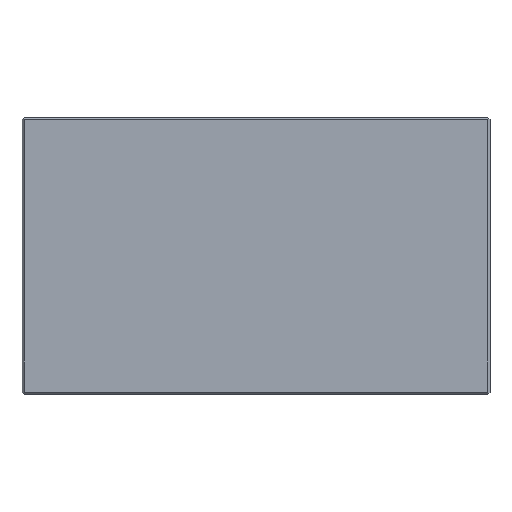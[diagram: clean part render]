
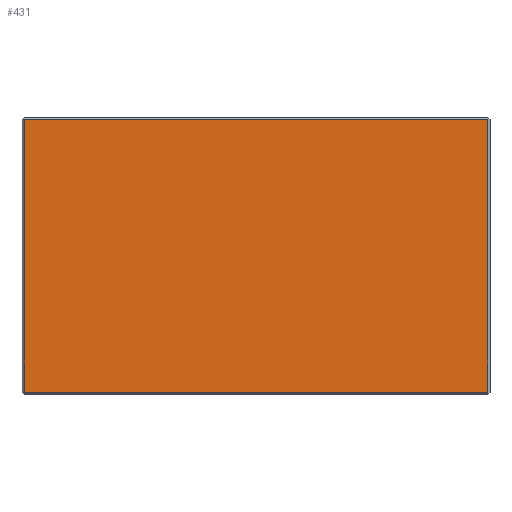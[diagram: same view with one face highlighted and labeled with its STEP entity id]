
A CAD part, top view. The second image highlights one B-rep face of the part: STEP entity #431.
In plain terms, the highlighted planar face has unit normal (0, 0, 1).
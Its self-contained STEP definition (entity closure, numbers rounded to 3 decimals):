
#88=ORIENTED_EDGE('',*,*,#190,.F.);
#89=ORIENTED_EDGE('',*,*,#191,.T.);
#90=ORIENTED_EDGE('',*,*,#192,.T.);
#91=ORIENTED_EDGE('',*,*,#193,.F.);
#190=EDGE_CURVE('',#236,#237,#278,.T.);
#191=EDGE_CURVE('',#236,#238,#279,.T.);
#192=EDGE_CURVE('',#238,#239,#280,.T.);
#193=EDGE_CURVE('',#237,#239,#281,.T.);
#236=VERTEX_POINT('',#691);
#237=VERTEX_POINT('',#692);
#238=VERTEX_POINT('',#694);
#239=VERTEX_POINT('',#696);
#278=LINE('',#690,#326);
#279=LINE('',#693,#327);
#280=LINE('',#695,#328);
#281=LINE('',#697,#329);
#326=VECTOR('',#563,1000.);
#327=VECTOR('',#564,1000.);
#328=VECTOR('',#565,1000.);
#329=VECTOR('',#566,1000.);
#353=EDGE_LOOP('',(#88,#89,#90,#91));
#387=FACE_BOUND('',#353,.T.);
#413=PLANE('',#474);
#431=ADVANCED_FACE('',(#387),#413,.T.);
#474=AXIS2_PLACEMENT_3D('',#689,#561,#562);
#561=DIRECTION('',(0.,0.,1.));
#562=DIRECTION('',(1.,0.,0.));
#563=DIRECTION('',(0.,-1.,0.));
#564=DIRECTION('',(-1.,0.,0.));
#565=DIRECTION('',(0.,-1.,0.));
#566=DIRECTION('',(-1.,0.,0.));
#689=CARTESIAN_POINT('',(0.,0.,19.));
#690=CARTESIAN_POINT('',(97.,116.,19.));
#691=CARTESIAN_POINT('',(97.,115.,19.));
#692=CARTESIAN_POINT('',(97.,1.,19.));
#693=CARTESIAN_POINT('',(98.,115.,19.));
#694=CARTESIAN_POINT('',(-97.,115.,19.));
#695=CARTESIAN_POINT('',(-97.,116.,19.));
#696=CARTESIAN_POINT('',(-97.,1.,19.));
#697=CARTESIAN_POINT('',(98.,1.,19.));
